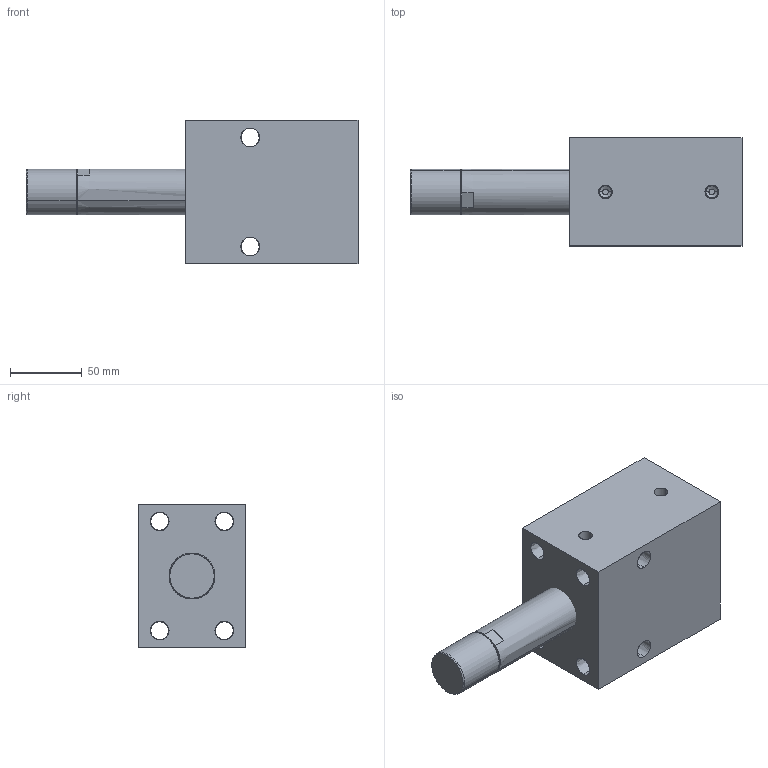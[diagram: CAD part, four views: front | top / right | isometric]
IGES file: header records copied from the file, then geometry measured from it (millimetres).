
Start section: SolidWorks IGES file using analytic representation for surfaces
Global section: file name: C:\Documents and Settings\rajib\Desktop\Rajib\BLOCK CYLINDER HYDRAULIC\0501-0506\IGS 0501-0508\0505.IGS; native system: SolidWorks 2007; preprocessor: SolidWorks 2007; author: rajib; date: 110121.103626; units: millimetre
Bounding box: 231 x 75 x 100 mm (x, y, z)
Surface area: 96200.7 mm2 (no closed solid volume)
Topology: 0 solids, 0 shells, 76 faces, 1824 edges, 1824 vertices
Faces by surface type: revolution 54, bspline 22
